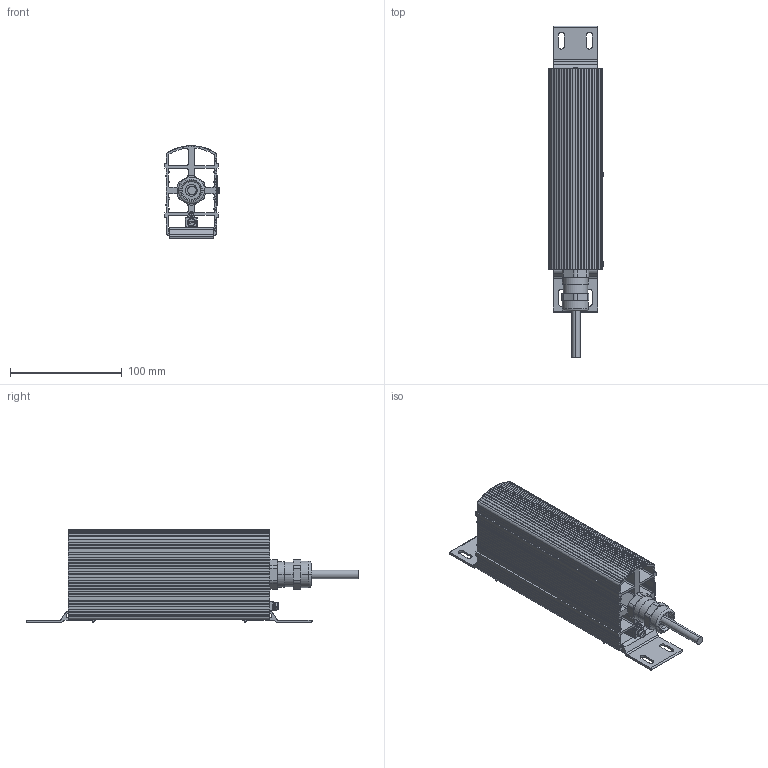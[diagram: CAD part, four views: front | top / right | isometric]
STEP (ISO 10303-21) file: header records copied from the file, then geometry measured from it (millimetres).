
FILE_DESCRIPTION (( 'STEP AP214' ), '1' );
FILE_NAME ('02032.x-1x_Ex-Heizgeraet.STEP', '2017-08-08T12:46:20', ( '' ), ( '' ), 'SwSTEP 2.0', 'SolidWorks 2017', '' );
FILE_SCHEMA (( 'AUTOMOTIVE_DESIGN' ));
Length unit declared in the file: millimetre
Products named in the file (1): 02032.x-1x_Ex-Heizgeraet
Bounding box: 49.16 x 297 x 82.8 mm (x, y, z)
Surface area: 160419.6 mm2 (no closed solid volume)
Topology: 0 solids, 12 shells, 514 faces, 1958 edges, 1370 vertices
Faces by surface type: plane 352, cylinder 133, cone 14, torus 10, sphere 4, bspline 1
Entity records: 26457 total; most frequent: CARTESIAN_POINT 4500, ORIENTED_EDGE 3258, DIRECTION 3233, EDGE_CURVE 1958, VECTOR 1509, LINE 1509, VERTEX_POINT 1370, AXIS2_PLACEMENT_3D 862
